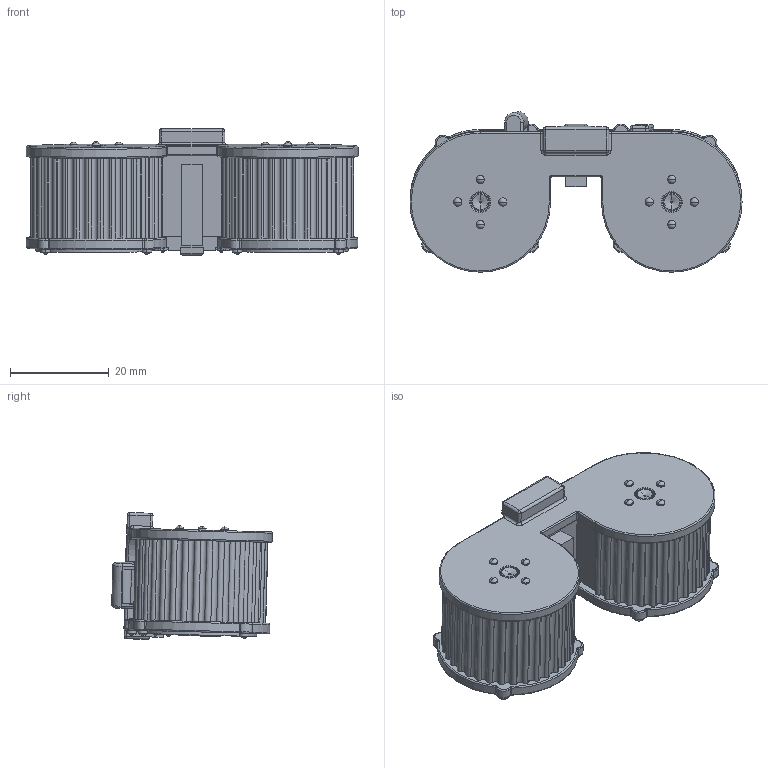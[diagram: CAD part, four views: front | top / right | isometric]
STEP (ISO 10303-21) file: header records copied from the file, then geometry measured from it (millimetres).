
FILE_DESCRIPTION (( 'STEP AP203' ), '1' );
FILE_NAME ('japanese-gun-001-ammo-pack.STEP', '2013-11-16T22:55:52', ( 'Kirk' ), ( 'Microsoft' ), 'SwSTEP 2.0', 'SolidWorks 2012', '' );
FILE_SCHEMA (( 'CONFIG_CONTROL_DESIGN' ));
Length unit declared in the file: inch
Products named in the file (1): japanese-gun-001-ammo-pack
Bounding box: 67.36 x 32.57 x 25.71 mm (x, y, z)
Volume: 11364.1 mm3; surface area: 13696.4 mm2
Topology: 1 solids, 2 shells, 632 faces, 1598 edges, 991 vertices
Faces by surface type: cylinder 324, torus 140, plane 100, bspline 38, sphere 30
Entity records: 23325 total; most frequent: CARTESIAN_POINT 7673, DIRECTION 3600, ORIENTED_EDGE 3170, EDGE_CURVE 1585, AXIS2_PLACEMENT_3D 1522, VERTEX_POINT 985, CIRCLE 927, EDGE_LOOP 660
